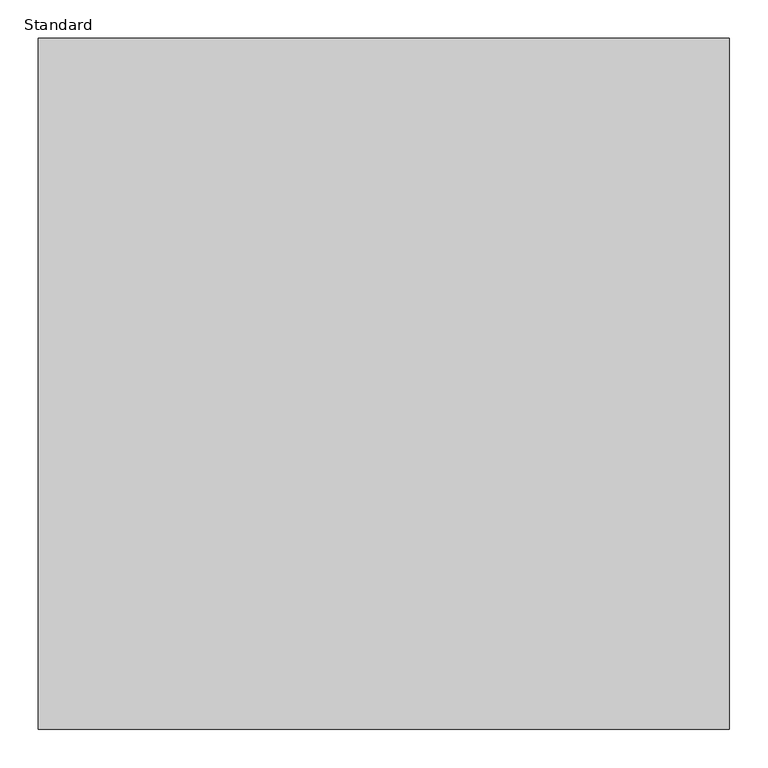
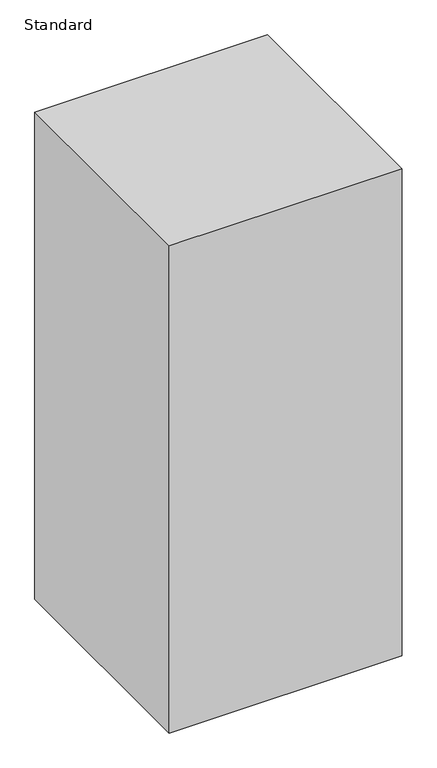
"""IFC4 building model written with IfcOpenShell, lengths in millimetres: proxy geometry, Clearance-Door-Circulation-AS1428.1-2021-Duracube : Standard."""

from ifc_helpers import new_model, si_unit, origin, origin_with_axes, place, context, project, spatial, polyline, outline, extrude, source, transform, mapped, element, save


def standard_ee242849(model_context):
    return source(origin(), model_context, "Body", "SweptSolid", [
        extrude(outline(polyline([(450.0, -450.0), (-450.0, -450.0), (-450.0, 450.0), (450.0, 450.0), (450.0, -450.0)])), origin_with_axes(), (0.0, 0.0, 1.0), 1990.0),
    ])


if __name__ == "__main__":
    model = new_model("IFC4")
    model_context = context("Model", 3, world=origin())
    ifc_project = project(units=[si_unit("LENGTHUNIT", "METRE", prefix="MILLI")], contexts=[model_context])
    site = spatial("IfcSite", under=ifc_project)
    building = spatial("IfcBuilding", under=site)
    placement = place(None, origin())
    standard_shape = standard_ee242849(model_context)
    element("IfcBuildingElementProxy", 1, Name="Clearance-Door-Circulation-AS1428.1-2021-Duracube : Standard", ObjectType="Clearance-Door-Circulation-AS1428.1-2021-Duracube : Standard", at=placement, inside=building, context=model_context, shape_type="MappedRepresentation", body=[
        mapped(standard_shape, transform((0.0, 0.0, 0.0), x_axis=(1.0, 0.0, 0.0), y_axis=(0.0, 1.0, 0.0), z_axis=(0.0, 0.0, 1.0))),
    ])
    save(model, "model.ifc")
